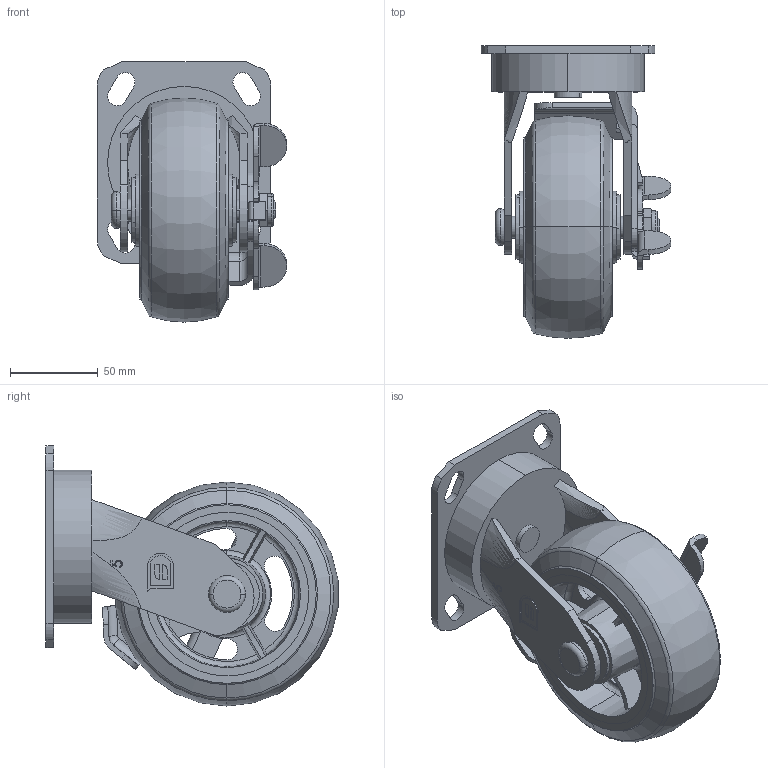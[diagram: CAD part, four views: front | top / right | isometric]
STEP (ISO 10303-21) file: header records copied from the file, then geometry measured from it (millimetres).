
FILE_DESCRIPTION (( 'STEP AP203' ), '1' );
FILE_NAME ('4111205004005-7.STEP', '2025-09-10T08:30:48', ( '' ), ( '' ), 'SwSTEP 2.0', 'SolidWorks 2019', '' );
FILE_SCHEMA (( 'CONFIG_CONTROL_DESIGN' ));
Length unit declared in the file: millimetre
Products named in the file (1): 4111205004005-7
Bounding box: 108.45 x 167.03 x 148.65 mm (x, y, z)
Volume: 625831.3 mm3; surface area: 172690.9 mm2
Topology: 11 solids, 11 shells, 449 faces, 1347 edges, 933 vertices
Faces by surface type: plane 198, cylinder 127, torus 54, cone 40, bspline 30
Entity records: 25390 total; most frequent: CARTESIAN_POINT 13552, ORIENTED_EDGE 2686, DIRECTION 2194, EDGE_CURVE 1343, VERTEX_POINT 931, AXIS2_PLACEMENT_3D 822, LINE 550, VECTOR 550
